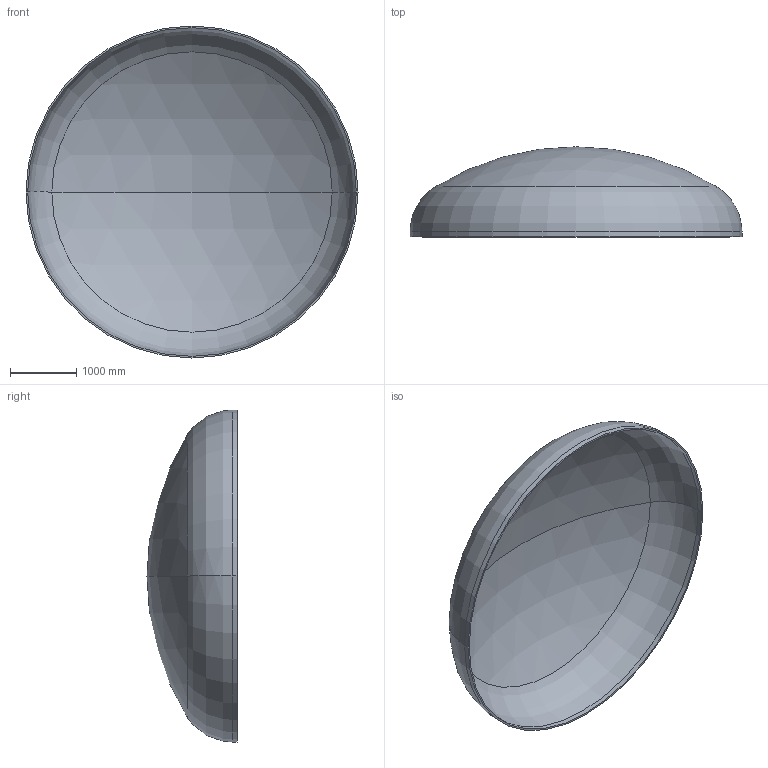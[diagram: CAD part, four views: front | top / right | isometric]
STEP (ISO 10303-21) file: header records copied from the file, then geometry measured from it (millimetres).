
FILE_DESCRIPTION (( 'STEP AP203' ), '1' );
FILE_NAME ('DIN 28013 Korbbogenform_-_Boden DIN 28013 - 5000 x 75 - I - s=25.step', '2016-07-02T00:15:37', ( '' ), ( '' ), 'SwSTEP 2.0', 'SolidWorks 2013', '' );
FILE_SCHEMA (( 'CONFIG_CONTROL_DESIGN' ));
Length unit declared in the file: millimetre
Products named in the file (1): DIN 28013 Korbbogenform_-_Boden DIN 28013 - 5000 x 75 - I - s=25
Bounding box: 5000 x 1356.67 x 5000 mm (x, y, z)
Volume: 704703138.4 mm3; surface area: 56768273.3 mm2
Topology: 1 solids, 1 shells, 13 faces, 24 edges, 14 vertices
Faces by surface type: torus 4, cylinder 4, sphere 4, plane 1
Entity records: 407 total; most frequent: DIRECTION 72, CARTESIAN_POINT 52, ORIENTED_EDGE 48, AXIS2_PLACEMENT_3D 34, EDGE_CURVE 24, CIRCLE 20, VERTEX_POINT 14, EDGE_LOOP 14
